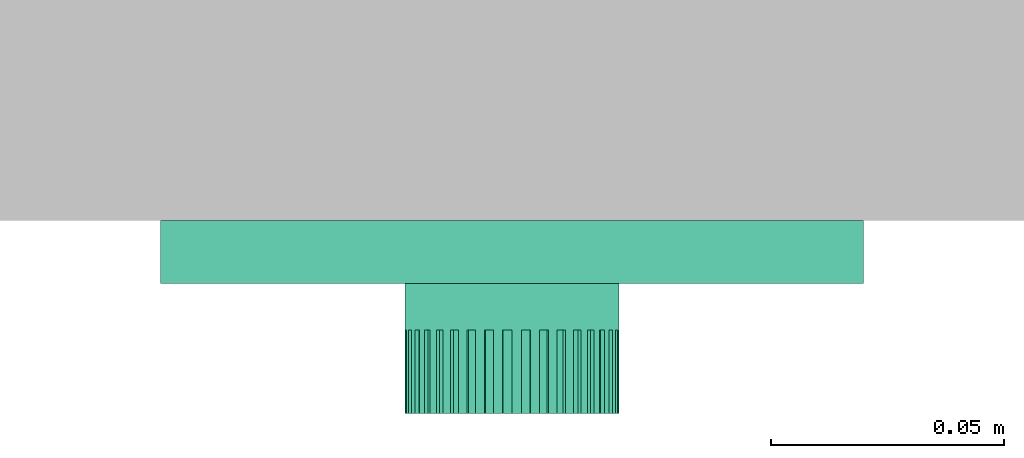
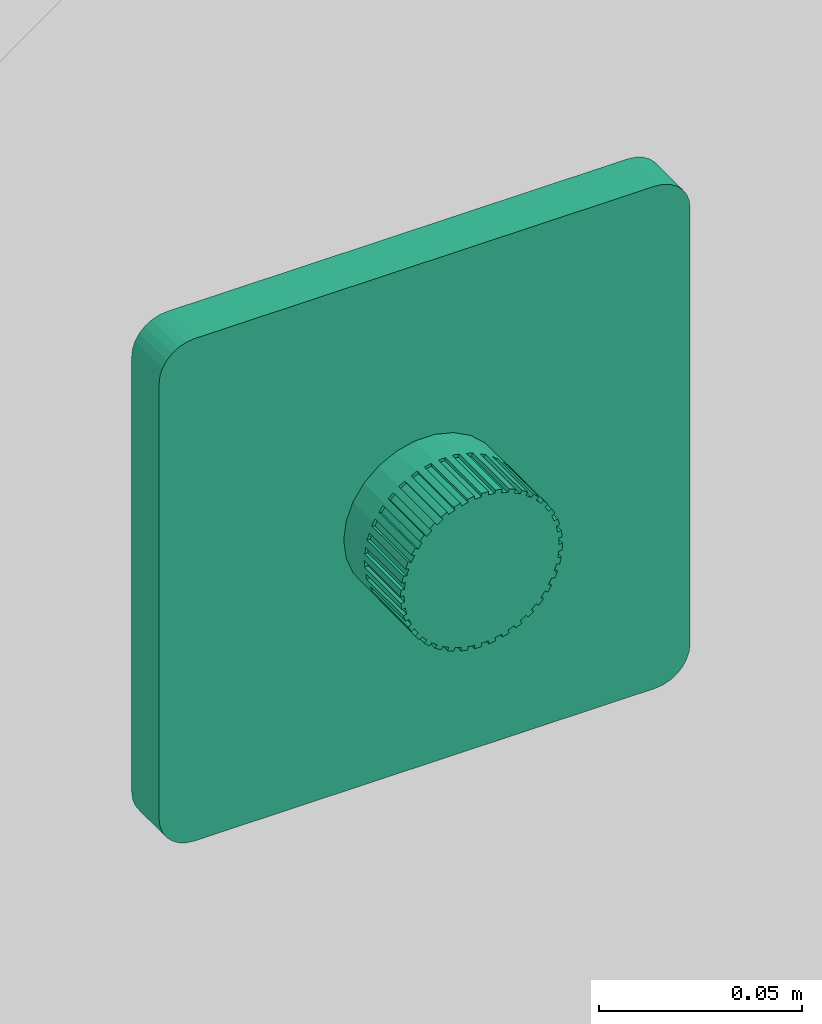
# One storey, part 2 of 2: 1 flow terminal.
"""IFC2X3 building model written with IfcOpenShell, lengths in millimetres."""

import ifcopenshell
import ifcopenshell.guid

model = None  # the IFC model being written
_history = None  # IfcOwnerHistory: only IFC2X3 demands one
_inside = {}  # id of a spatial element -> (the spatial element, [elements in it])
_under = {}  # id of a project, library or spatial element -> (it, [spatial elements below it])
_declared = {}  # id of a project -> (the project, [libraries it declares])
_typed = {}  # id of a type object -> (the type object, [elements of that type])
_made_of = {}  # id of a material, layer set ... -> (it, [elements and type objects made of it])


def new_model(schema):
    """Start an empty IFC model of exactly this schema.

    Asked for "IFC4X3", IfcOpenShell would pick the latest addendum, in which some entities
    have other attributes; the version numbers below select the first issue.
    IFC2X3 requires an IfcOwnerHistory on every rooted entity: one is made here for all.
    """
    global model, _history
    if schema == "IFC4X3":
        model = ifcopenshell.file(schema_version=(4, 3, 0, 0))
    else:
        model = ifcopenshell.file(schema=schema)
    _inside.clear()
    _under.clear()
    _declared.clear()
    _typed.clear()
    _made_of.clear()
    _history = None
    if model.schema == "IFC2X3":
        org = make("IfcOrganization", Name="unknown")
        user = make(
            "IfcPersonAndOrganization",
            ThePerson=make("IfcPerson", FamilyName="unknown"),
            TheOrganization=org,
        )
        app = make(
            "IfcApplication",
            ApplicationDeveloper=org,
            Version="unknown",
            ApplicationFullName="unknown",
            ApplicationIdentifier="unknown",
        )
        _history = make(
            "IfcOwnerHistory",
            OwningUser=user,
            OwningApplication=app,
            ChangeAction="ADDED",
            CreationDate=0,
        )
    return model


def make(cls, **values):
    """One entity of the class cls with the attributes given. An attribute that is None is left unset."""
    return model.create_entity(
        cls, **{name: value for name, value in values.items() if value is not None}
    )


def entity(cls, *values):
    """Any entity or typed value of the class cls, its attributes in the order of the schema. None: left unset."""
    e = model.create_entity(cls)
    for i, value in enumerate(values):
        if value is not None:
            e[i] = value
    return e


def rooted(cls, **values):
    """An entity with a GlobalId (a new one), such as an element, a storey or a relation."""
    return make(cls, GlobalId=ifcopenshell.guid.new(), OwnerHistory=_history, **values)


def si_unit(unit_type, name, prefix=None):
    """IfcSIUnit, for example si_unit("LENGTHUNIT", "METRE", prefix="MILLI")."""
    return make("IfcSIUnit", UnitType=unit_type, Prefix=prefix, Name=name)


def converted_unit(unit_type, name, factor, base, dimensions=None, offset=None):
    """IfcConversionBasedUnit, such as the inch: factor (a typed value) times the base unit."""
    return make(
        "IfcConversionBasedUnit"
        if offset is None
        else "IfcConversionBasedUnitWithOffset",
        ConversionOffset=offset,
        Dimensions=None
        if dimensions is None
        else entity("IfcDimensionalExponents", *dimensions),
        UnitType=unit_type,
        Name=name,
        ConversionFactor=make(
            "IfcMeasureWithUnit", ValueComponent=factor, UnitComponent=base
        ),
    )


def derived_unit(unit_type, elements):
    """IfcDerivedUnit: a product of units, each with its exponent."""
    return make(
        "IfcDerivedUnit",
        Elements=[
            make("IfcDerivedUnitElement", Unit=unit, Exponent=power)
            for unit, power in elements
        ],
        UnitType=unit_type,
    )


def assignment(units):
    """IfcUnitAssignment: the units of a project."""
    return None if units is None else make("IfcUnitAssignment", Units=units)


def point(xyz):
    """IfcCartesianPoint."""
    return None if xyz is None else make("IfcCartesianPoint", Coordinates=xyz)


def direction(xyz):
    """IfcDirection."""
    return None if xyz is None else make("IfcDirection", DirectionRatios=xyz)


def frame(location, z_axis=None, x_axis=None):
    """IfcAxis2Placement3D, a coordinate frame: its origin and axes. An axis left out is left unset."""
    return make(
        "IfcAxis2Placement3D",
        Location=point(location),
        Axis=direction(z_axis),
        RefDirection=direction(x_axis),
    )


def frame_2d(location, x_axis=None):
    """IfcAxis2Placement2D, a coordinate frame in the plane: its origin and x axis."""
    return make(
        "IfcAxis2Placement2D", Location=point(location), RefDirection=direction(x_axis)
    )


def origin():
    """The frame at (0, 0, 0) with its axes left unset."""
    return frame((0.0, 0.0, 0.0))


def place(relative_to, where):
    """IfcLocalPlacement: puts the frame where relative to a parent placement (None: the world)."""
    return make(
        "IfcLocalPlacement", PlacementRelTo=relative_to, RelativePlacement=where
    )


def context(
    kind, dimensions, precision=None, world=None, true_north=None, identifier=None
):
    """IfcGeometricRepresentationContext, for example the 3D "Model" context."""
    return make(
        "IfcGeometricRepresentationContext",
        ContextIdentifier=identifier,
        ContextType=kind,
        CoordinateSpaceDimension=dimensions,
        Precision=precision,
        WorldCoordinateSystem=world,
        TrueNorth=true_north,
    )


def subcontext(parent, identifier, kind, view, scale=None):
    """IfcGeometricRepresentationSubContext, for example "Body" below "Model"."""
    return make(
        "IfcGeometricRepresentationSubContext",
        ContextIdentifier=identifier,
        ContextType=kind,
        ParentContext=parent,
        TargetScale=scale,
        TargetView=view,
    )


def project(units=None, contexts=None):
    """IfcProject with its units and contexts."""
    return rooted(
        "IfcProject",
        Name="project",
        RepresentationContexts=contexts,
        UnitsInContext=assignment(units),
    )


def spatial(cls, under=None, at=None, **own):
    """A site, building, storey or space (cls), placed at a placement, below another one or the project."""
    s = rooted(cls, ObjectPlacement=at, **own)
    if under is not None:
        _under.setdefault(under.id(), (under, []))[1].append(s)
    return s


def polyline(points):
    """IfcPolyline through the points."""
    return make("IfcPolyline", Points=[point(p) for p in points])


def circle_curve(where, radius):
    """IfcCircle in the frame where."""
    return make("IfcCircle", Position=where, Radius=radius)


def parameter(value):
    """IfcParameterValue: where a trimmed curve begins or ends, as a parameter of its basis curve."""
    return model.create_entity("IfcParameterValue", value)


def trimmed(basis, trim1, trim2, sense, master):
    """IfcTrimmedCurve: the piece of a basis curve between two trims."""
    return make(
        "IfcTrimmedCurve",
        BasisCurve=basis,
        Trim1=trim1,
        Trim2=trim2,
        SenseAgreement=sense,
        MasterRepresentation=master,
    )


def segment(curve, same_sense, transition):
    """IfcCompositeCurveSegment."""
    return make(
        "IfcCompositeCurveSegment",
        Transition=transition,
        SameSense=same_sense,
        ParentCurve=curve,
    )


def composite_curve(segments, self_intersect=None):
    """IfcCompositeCurve: segments joined end to end."""
    return make("IfcCompositeCurve", Segments=segments, SelfIntersect=self_intersect)


def profile(cls, at=None, kind="AREA", **sizes):
    """A parametric profile (cls). Its sizes go by their IFC names, for example OverallWidth=200.0."""
    return make(cls, ProfileType=kind, Position=at, **sizes)


def circle(**sizes):
    """IfcCircleProfileDef."""
    return profile("IfcCircleProfileDef", **sizes)


def outline(outer, holes=None, kind="AREA"):
    """IfcArbitraryClosedProfileDef: a profile drawn as a closed curve; with holes, ...WithVoids."""
    if holes is None:
        return make("IfcArbitraryClosedProfileDef", ProfileType=kind, OuterCurve=outer)
    return make(
        "IfcArbitraryProfileDefWithVoids",
        ProfileType=kind,
        OuterCurve=outer,
        InnerCurves=holes,
    )


def extrude(swept, where, along, depth):
    """IfcExtrudedAreaSolid: the profile swept, set in the frame where, extruded along a direction by depth."""
    return make(
        "IfcExtrudedAreaSolid",
        SweptArea=swept,
        Position=where,
        ExtrudedDirection=direction(along),
        Depth=depth,
    )


def shape(context_of_items, identifier, shape_type, items):
    """IfcShapeRepresentation: the items that make up one representation, for example the "Body"."""
    return make(
        "IfcShapeRepresentation",
        ContextOfItems=context_of_items,
        RepresentationIdentifier=identifier,
        RepresentationType=shape_type,
        Items=items,
    )


def source(mapping_origin, context_of_items, identifier, shape_type, items):
    """IfcRepresentationMap: a shape defined once, which mapped items show again and again."""
    return make(
        "IfcRepresentationMap",
        MappingOrigin=mapping_origin,
        MappedRepresentation=shape(context_of_items, identifier, shape_type, items),
    )


def transform(
    local_origin,
    x_axis=None,
    y_axis=None,
    z_axis=None,
    scale=None,
    scale2=None,
    scale3=None,
    uniform=True,
):
    """IfcCartesianTransformationOperator3D, or its non-uniform kind. x_axis, y_axis, z_axis: its Axis1, 2, 3."""
    if uniform:
        return make(
            "IfcCartesianTransformationOperator3D",
            Axis1=direction(x_axis),
            Axis2=direction(y_axis),
            LocalOrigin=point(local_origin),
            Scale=scale,
            Axis3=direction(z_axis),
        )
    return make(
        "IfcCartesianTransformationOperator3DnonUniform",
        Axis1=direction(x_axis),
        Axis2=direction(y_axis),
        LocalOrigin=point(local_origin),
        Scale=scale,
        Axis3=direction(z_axis),
        Scale2=scale2,
        Scale3=scale3,
    )


def mapped(mapping_source, mapping_target):
    """IfcMappedItem: shows the shape of a source again, moved by a transform."""
    return make(
        "IfcMappedItem", MappingSource=mapping_source, MappingTarget=mapping_target
    )


def material(Name=None, Category=None):
    """IfcMaterial."""
    return make("IfcMaterial", Name=Name, Category=Category)


def made_of(thing, what):
    """Note that an element or type object is made of a material, layer set ...; save() writes the relation."""
    if what is not None:
        _made_of.setdefault(what.id(), (what, []))[1].append(thing)
    return thing


def type_object(cls, material=None, **own):
    """A type object (cls), such as IfcWallType, which elements share."""
    return made_of(rooted(cls, **own), material)


def type_shapes(of_type, sources):
    """Give a type object the sources (RepresentationMaps) that its elements show as mapped items."""
    of_type.RepresentationMaps = sources


def element(
    cls,
    number,
    at=None,
    inside=None,
    cuts=None,
    type_object=None,
    material=None,
    context=None,
    identifier="Body",
    shape_type=None,
    held_by="IfcProductDefinitionShape",
    body=None,
    shapes=None,
    **own,
):
    """One element of the class cls, such as IfcWall. Its Tag is "e" and its number.

    at: its placement. inside: the storey or other place that contains it. cuts: it is an
    opening in that element (IfcRelVoidsElement). A single representation is given by context,
    identifier, shape_type and body (its items); several are given by shapes. held_by: the class
    of the entity that holds the representations. save() writes the other relations.
    """
    e = rooted(cls, Tag="e%d" % number, ObjectPlacement=at, **own)
    if body is not None:
        shapes = [shape(context, identifier, shape_type, body)]
    if shapes is not None:
        e.Representation = make(held_by, Representations=shapes)
    if inside is not None:
        _inside.setdefault(inside.id(), (inside, []))[1].append(e)
    if cuts is not None:
        rooted(
            "IfcRelVoidsElement", RelatingBuildingElement=cuts, RelatedOpeningElement=e
        )
    if type_object is not None:
        _typed.setdefault(type_object.id(), (type_object, []))[1].append(e)
    return made_of(e, material)


def aggregate(whole, parts):
    """IfcRelAggregates: a whole, such as a stair, and the parts it consists of."""
    return rooted("IfcRelAggregates", RelatingObject=whole, RelatedObjects=parts)


def save(model, path):
    """Write the relations noted so far, then the file.

    IfcRelAggregates (storeys below a building ...), IfcRelContainedInSpatialStructure (elements
    in a storey), IfcRelDefinesByType, IfcRelAssociatesMaterial and IfcRelDeclares: one each for
    every whole, place, type object, material and project.
    """
    for whole, parts in _under.values():
        aggregate(whole, parts)
    for where, things in _inside.values():
        rooted(
            "IfcRelContainedInSpatialStructure",
            RelatedElements=things,
            RelatingStructure=where,
        )
    for kind, things in _typed.values():
        rooted("IfcRelDefinesByType", RelatedObjects=things, RelatingType=kind)
    for what, things in _made_of.values():
        rooted("IfcRelAssociatesMaterial", RelatedObjects=things, RelatingMaterial=what)
    for by, libraries in _declared.values():
        rooted("IfcRelDeclares", RelatingContext=by, RelatedDefinitions=libraries)
    model.write(path)


model = new_model("IFC2X3")

# Units and contexts
model_context = context("Model", 3, precision=0.01, world=origin(), true_north=direction((6.12303176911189e-17, 1.0)))
body_context = subcontext(model_context, "Body", "Model", "MODEL_VIEW")
ifc_project = project(units=[si_unit("LENGTHUNIT", "METRE", prefix="MILLI"), si_unit("AREAUNIT", "SQUARE_METRE"), si_unit("VOLUMEUNIT", "CUBIC_METRE"), converted_unit("PLANEANGLEUNIT", "DEGREE", entity("IfcRatioMeasure", 0.0174532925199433), si_unit("PLANEANGLEUNIT", "RADIAN"), dimensions=[0, 0, 0, 0, 0, 0, 0]), si_unit("MASSUNIT", "GRAM", prefix="KILO"), derived_unit("MASSDENSITYUNIT", [(si_unit("MASSUNIT", "GRAM", prefix="KILO"), 1), (si_unit("LENGTHUNIT", "METRE"), -3)]), derived_unit("MOMENTOFINERTIAUNIT", [(si_unit("LENGTHUNIT", "METRE"), 4)]), si_unit("TIMEUNIT", "SECOND"), si_unit("FREQUENCYUNIT", "HERTZ"), si_unit("THERMODYNAMICTEMPERATUREUNIT", "DEGREE_CELSIUS"), derived_unit("THERMALTRANSMITTANCEUNIT", [(si_unit("MASSUNIT", "GRAM", prefix="KILO"), 1), (si_unit("THERMODYNAMICTEMPERATUREUNIT", "KELVIN"), -1), (si_unit("TIMEUNIT", "SECOND"), -3)]), derived_unit("VOLUMETRICFLOWRATEUNIT", [(si_unit("LENGTHUNIT", "METRE"), 3), (si_unit("TIMEUNIT", "SECOND"), -1)]), si_unit("ELECTRICCURRENTUNIT", "AMPERE"), si_unit("ELECTRICVOLTAGEUNIT", "VOLT"), si_unit("POWERUNIT", "WATT"), si_unit("FORCEUNIT", "NEWTON", prefix="KILO"), si_unit("ILLUMINANCEUNIT", "LUX"), si_unit("LUMINOUSFLUXUNIT", "LUMEN"), si_unit("LUMINOUSINTENSITYUNIT", "CANDELA"), derived_unit("USERDEFINED", [(si_unit("MASSUNIT", "GRAM", prefix="KILO"), -1), (si_unit("LENGTHUNIT", "METRE"), -2), (si_unit("TIMEUNIT", "SECOND"), 3), (si_unit("LUMINOUSFLUXUNIT", "LUMEN"), 1)]), derived_unit("LINEARVELOCITYUNIT", [(si_unit("LENGTHUNIT", "METRE"), 1), (si_unit("TIMEUNIT", "SECOND"), -1)]), si_unit("PRESSUREUNIT", "PASCAL"), derived_unit("USERDEFINED", [(si_unit("LENGTHUNIT", "METRE"), -2), (si_unit("MASSUNIT", "GRAM", prefix="KILO"), 1), (si_unit("TIMEUNIT", "SECOND"), -2)]), derived_unit("LINEARFORCEUNIT", [(si_unit("MASSUNIT", "GRAM", prefix="KILO"), 1), (si_unit("LENGTHUNIT", "METRE"), 1), (si_unit("TIMEUNIT", "SECOND"), -2), (si_unit("LENGTHUNIT", "METRE"), -1)]), derived_unit("PLANARFORCEUNIT", [(si_unit("MASSUNIT", "GRAM", prefix="KILO"), 1), (si_unit("LENGTHUNIT", "METRE"), 1), (si_unit("TIMEUNIT", "SECOND"), -2), (si_unit("LENGTHUNIT", "METRE"), -2)])], contexts=[model_context])

# Site, building, storey
site_placement = place(None, origin())
site = spatial("IfcSite", under=ifc_project, at=site_placement, Name="Default", CompositionType="ELEMENT")
building_placement = place(site_placement, origin())
building = spatial("IfcBuilding", under=site, at=building_placement, CompositionType="ELEMENT")
storey_placement = place(building_placement, origin())
storey = spatial("IfcBuildingStorey", under=building, at=storey_placement, Name="Level 1", CompositionType="ELEMENT", Elevation=0.0)

# Flow terminal
ifc_material = material(Name="Cool Sunrise")
distribution_element_type = type_object("IfcDistributionElementType", Name="FFAS0926-709GL0BT0_REVIT:EasySET for Head Shower", material=ifc_material)
shared_shape = source(origin(), body_context, "Body", "SweptSolid", [
    extrude(outline(composite_curve([segment(trimmed(circle_curve(frame_2d((0.0, 0.0), x_axis=(0.999048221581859, 0.0436193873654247)), 23.0000000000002), [parameter(265.0)], [parameter(270.0)], True, "PARAMETER"), True, "CONTINUOUS"), segment(polyline([(1.00324590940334, -22.9781090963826), (0.959626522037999, -21.9790608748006)]), True, "CONTINUOUS"), segment(trimmed(circle_curve(frame_2d((0.0, 0.0), x_axis=(0.999048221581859, 0.0436193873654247)), 22.0), [parameter(270.0)], [parameter(274.999999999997)], True, "PARAMETER"), True, "CONTINUOUS"), segment(polyline([(2.8715762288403, -21.8117869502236), (3.00210242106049, -22.8032318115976)]), True, "CONTINUOUS"), segment(trimmed(circle_curve(frame_2d((0.0, 0.0), x_axis=(0.999048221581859, 0.0436193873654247)), 23.0000000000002), [parameter(274.999999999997)], [parameter(279.999999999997)], True, "PARAMETER"), True, "CONTINUOUS"), segment(polyline([(4.97811112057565, -22.4548081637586), (4.76167150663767, -21.4785121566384)]), True, "CONTINUOUS"), segment(trimmed(circle_curve(frame_2d((0.0, 0.0), x_axis=(0.999048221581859, 0.0436193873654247)), 22.0), [parameter(279.999999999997)], [parameter(284.999999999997)], True, "PARAMETER"), True, "CONTINUOUS"), segment(polyline([(6.61552758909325, -20.981772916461), (6.91623338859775, -21.9354898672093)]), True, "CONTINUOUS"), segment(trimmed(circle_curve(frame_2d((0.0, 0.0), x_axis=(0.999048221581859, 0.0436193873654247)), 23.0000000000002), [parameter(284.999999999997)], [parameter(289.999999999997)], True, "PARAMETER"), True, "CONTINUOUS"), segment(polyline([(8.80171894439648, -21.2492292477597), (8.41903551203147, -20.3253497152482)]), True, "CONTINUOUS"), segment(trimmed(circle_curve(frame_2d((0.0, 0.0), x_axis=(0.999048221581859, 0.0436193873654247)), 22.0), [parameter(289.999999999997)], [parameter(294.999999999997)], True, "PARAMETER"), True, "CONTINUOUS"), segment(polyline([(10.1584694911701, -19.5142383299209), (10.6202181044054, -20.4012491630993)]), True, "CONTINUOUS"), segment(trimmed(circle_curve(frame_2d((0.0, 0.0), x_axis=(0.999048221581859, 0.0436193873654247)), 23.0000000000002), [parameter(294.999999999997)], [parameter(299.999999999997)], True, "PARAMETER"), True, "CONTINUOUS"), segment(polyline([(12.3578909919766, -19.3980032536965), (11.8205913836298, -18.5546118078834)]), True, "CONTINUOUS"), segment(trimmed(circle_curve(frame_2d((0.0, 0.0), x_axis=(0.999048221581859, 0.0436193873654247)), 22.0), [parameter(299.999999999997)], [parameter(304.999999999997)], True, "PARAMETER"), True, "CONTINUOUS"), segment(polyline([(13.3927514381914, -17.4537734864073), (14.0015128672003, -18.2471268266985)]), True, "CONTINUOUS"), segment(trimmed(circle_curve(frame_2d((0.0, 0.0), x_axis=(0.999048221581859, 0.0436193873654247)), 23.0000000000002), [parameter(304.999999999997)], [parameter(309.999999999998)], True, "PARAMETER"), True, "CONTINUOUS"), segment(polyline([(15.5385747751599, -16.957378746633), (14.8629845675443, -16.2201014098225)]), True, "CONTINUOUS"), segment(trimmed(circle_curve(frame_2d((0.0, 0.0), x_axis=(0.999048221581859, 0.0436193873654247)), 22.0), [parameter(309.999999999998)], [parameter(314.999999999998)], True, "PARAMETER"), True, "CONTINUOUS"), segment(polyline([(16.2201014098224, -14.8629845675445), (16.9573787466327, -15.5385747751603)]), True, "CONTINUOUS"), segment(trimmed(circle_curve(frame_2d((0.0, 0.0), x_axis=(0.999048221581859, 0.0436193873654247)), 23.0000000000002), [parameter(314.999999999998)], [parameter(319.999999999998)], True, "PARAMETER"), True, "CONTINUOUS"), segment(polyline([(18.2471268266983, -14.0015128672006), (17.453773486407, -13.3927514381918)]), True, "CONTINUOUS"), segment(trimmed(circle_curve(frame_2d((0.0, 0.0), x_axis=(0.999048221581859, 0.0436193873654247)), 22.0), [parameter(319.999999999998)], [parameter(324.999999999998)], True, "PARAMETER"), True, "CONTINUOUS"), segment(polyline([(18.5546118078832, -11.8205913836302), (19.3980032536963, -12.357890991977)]), True, "CONTINUOUS"), segment(trimmed(circle_curve(frame_2d((0.0, 0.0), x_axis=(0.999048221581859, 0.0436193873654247)), 23.0000000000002), [parameter(324.999999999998)], [parameter(329.999999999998)], True, "PARAMETER"), True, "CONTINUOUS"), segment(polyline([(20.4012491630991, -10.6202181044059), (19.5142383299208, -10.1584694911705)]), True, "CONTINUOUS"), segment(trimmed(circle_curve(frame_2d((0.0, 0.0), x_axis=(0.999048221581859, 0.0436193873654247)), 22.0), [parameter(329.999999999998)], [parameter(334.999999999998)], True, "PARAMETER"), True, "CONTINUOUS"), segment(polyline([(20.3253497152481, -8.41903551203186), (21.2492292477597, -8.80171894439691)]), True, "CONTINUOUS"), segment(trimmed(circle_curve(frame_2d((0.0, 0.0), x_axis=(0.999048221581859, 0.0436193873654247)), 23.0000000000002), [parameter(334.999999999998)], [parameter(339.999999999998)], True, "PARAMETER"), True, "CONTINUOUS"), segment(polyline([(21.9354898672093, -6.91623338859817), (20.9817729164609, -6.61552758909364)]), True, "CONTINUOUS"), segment(trimmed(circle_curve(frame_2d((0.0, 0.0), x_axis=(0.999048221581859, 0.0436193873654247)), 22.0), [parameter(339.999999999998)], [parameter(344.999999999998)], True, "PARAMETER"), True, "CONTINUOUS"), segment(polyline([(21.4785121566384, -4.7616715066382), (22.4548081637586, -4.97811112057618)]), True, "CONTINUOUS"), segment(trimmed(circle_curve(frame_2d((0.0, 0.0), x_axis=(0.999048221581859, 0.0436193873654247)), 23.0000000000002), [parameter(344.999999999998)], [parameter(349.999999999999)], True, "PARAMETER"), True, "CONTINUOUS"), segment(polyline([(22.8032318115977, -3.00210242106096), (21.8117869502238, -2.87157622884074)]), True, "CONTINUOUS"), segment(trimmed(circle_curve(frame_2d((0.0, 0.0), x_axis=(0.999048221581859, 0.0436193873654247)), 22.0), [parameter(349.999999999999)], [parameter(354.999999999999)], True, "PARAMETER"), True, "CONTINUOUS"), segment(polyline([(21.9790608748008, -0.959626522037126), (22.9781090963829, -1.00324590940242)]), True, "CONTINUOUS"), segment(trimmed(circle_curve(frame_2d((0.0, 0.0), x_axis=(0.999048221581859, 0.0436193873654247)), 23.0000000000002), [parameter(354.999999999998)], [parameter(359.999999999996)], True, "PARAMETER"), True, "CONTINUOUS"), segment(polyline([(22.9781090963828, 1.00324590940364), (21.9790608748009, 0.959626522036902)]), True, "CONTINUOUS"), segment(trimmed(circle_curve(frame_2d((0.0, 0.0), x_axis=(0.999048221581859, 0.0436193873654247)), 22.0), [parameter(359.999999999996)], [parameter(4.99999999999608)], True, "PARAMETER"), True, "CONTINUOUS"), segment(polyline([(21.8117869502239, 2.87157622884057), (22.8032318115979, 3.00210242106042)]), True, "CONTINUOUS"), segment(trimmed(circle_curve(frame_2d((0.0, 0.0), x_axis=(0.999048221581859, 0.0436193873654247)), 23.0000000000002), [parameter(4.99999999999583)], [parameter(9.99999999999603)], True, "PARAMETER"), True, "CONTINUOUS"), segment(polyline([(22.4548081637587, 4.97811112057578), (21.4785121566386, 4.76167150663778)]), True, "CONTINUOUS"), segment(trimmed(circle_curve(frame_2d((0.0, 0.0), x_axis=(0.999048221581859, 0.0436193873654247)), 22.0), [parameter(9.99999999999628)], [parameter(14.9999999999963)], True, "PARAMETER"), True, "CONTINUOUS"), segment(polyline([(20.9817729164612, 6.6155275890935), (21.9354898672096, 6.91623338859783)]), True, "CONTINUOUS"), segment(trimmed(circle_curve(frame_2d((0.0, 0.0), x_axis=(0.999048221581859, 0.0436193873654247)), 23.0000000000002), [parameter(14.9999999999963)], [parameter(19.9999999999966)], True, "PARAMETER"), True, "CONTINUOUS"), segment(polyline([(21.24922924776, 8.80171894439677), (20.3253497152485, 8.41903551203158)]), True, "CONTINUOUS"), segment(trimmed(circle_curve(frame_2d((0.0, 0.0), x_axis=(0.999048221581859, 0.0436193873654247)), 22.0), [parameter(19.9999999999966)], [parameter(24.9999999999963)], True, "PARAMETER"), True, "CONTINUOUS"), segment(polyline([(19.5142383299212, 10.1584694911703), (20.4012491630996, 10.6202181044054)]), True, "CONTINUOUS"), segment(trimmed(circle_curve(frame_2d((0.0, 0.0), x_axis=(0.999048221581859, 0.0436193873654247)), 23.0000000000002), [parameter(24.9999999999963)], [parameter(29.9999999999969)], True, "PARAMETER"), True, "CONTINUOUS"), segment(polyline([(19.3980032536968, 12.3578909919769), (18.5546118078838, 11.8205913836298)]), True, "CONTINUOUS"), segment(trimmed(circle_curve(frame_2d((0.0, 0.0), x_axis=(0.999048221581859, 0.0436193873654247)), 22.0), [parameter(29.9999999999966)], [parameter(34.9999999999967)], True, "PARAMETER"), True, "CONTINUOUS"), segment(polyline([(17.4537734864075, 13.3927514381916), (18.2471268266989, 14.0015128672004)]), True, "CONTINUOUS"), segment(trimmed(circle_curve(frame_2d((0.0, 0.0), x_axis=(0.999048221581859, 0.0436193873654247)), 23.0000000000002), [parameter(34.9999999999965)], [parameter(39.999999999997)], True, "PARAMETER"), True, "CONTINUOUS"), segment(polyline([(16.9573787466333, 15.5385747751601), (16.220101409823, 14.8629845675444)]), True, "CONTINUOUS"), segment(trimmed(circle_curve(frame_2d((0.0, 0.0), x_axis=(0.999048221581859, 0.0436193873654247)), 22.0), [parameter(39.999999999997)], [parameter(44.9999999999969)], True, "PARAMETER"), True, "CONTINUOUS"), segment(polyline([(14.8629845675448, 16.2201014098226), (15.5385747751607, 16.9573787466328)]), True, "CONTINUOUS"), segment(trimmed(circle_curve(frame_2d((0.0, 0.0), x_axis=(0.999048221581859, 0.0436193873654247)), 23.0000000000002), [parameter(44.9999999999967)], [parameter(49.9999999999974)], True, "PARAMETER"), True, "CONTINUOUS"), segment(polyline([(14.0015128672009, 18.2471268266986), (13.3927514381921, 17.4537734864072)]), True, "CONTINUOUS"), segment(trimmed(circle_curve(frame_2d((0.0, 0.0), x_axis=(0.999048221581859, 0.0436193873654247)), 22.0), [parameter(49.9999999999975)], [parameter(54.999999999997)], True, "PARAMETER"), True, "CONTINUOUS"), segment(polyline([(11.8205913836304, 18.5546118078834), (12.3578909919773, 19.3980032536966)]), True, "CONTINUOUS"), segment(trimmed(circle_curve(frame_2d((0.0, 0.0), x_axis=(0.999048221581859, 0.0436193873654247)), 23.0000000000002), [parameter(54.9999999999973)], [parameter(59.9999999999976)], True, "PARAMETER"), True, "CONTINUOUS"), segment(polyline([(10.6202181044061, 20.4012491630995), (10.1584694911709, 19.514238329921)]), True, "CONTINUOUS"), segment(trimmed(circle_curve(frame_2d((0.0, 0.0), x_axis=(0.999048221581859, 0.0436193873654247)), 22.0), [parameter(59.9999999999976)], [parameter(64.9999999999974)], True, "PARAMETER"), True, "CONTINUOUS"), segment(polyline([(8.41903551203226, 20.3253497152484), (8.8017189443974, 21.2492292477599)]), True, "CONTINUOUS"), segment(trimmed(circle_curve(frame_2d((0.0, 0.0), x_axis=(0.999048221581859, 0.0436193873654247)), 23.0000000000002), [parameter(64.9999999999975)], [parameter(69.9999999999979)], True, "PARAMETER"), True, "CONTINUOUS"), segment(polyline([(6.91623338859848, 21.9354898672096), (6.61552758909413, 20.9817729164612)]), True, "CONTINUOUS"), segment(trimmed(circle_curve(frame_2d((0.0, 0.0), x_axis=(0.999048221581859, 0.0436193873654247)), 22.0), [parameter(69.9999999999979)], [parameter(74.9999999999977)], True, "PARAMETER"), True, "CONTINUOUS"), segment(polyline([(4.76167150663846, 21.4785121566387), (4.9781111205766, 22.4548081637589)]), True, "CONTINUOUS"), segment(trimmed(circle_curve(frame_2d((0.0, 0.0), x_axis=(0.999048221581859, 0.0436193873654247)), 23.0000000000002), [parameter(74.9999999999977)], [parameter(79.999999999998)], True, "PARAMETER"), True, "CONTINUOUS"), segment(polyline([(3.00210242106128, 22.803231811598), (2.87157622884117, 21.8117869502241)]), True, "CONTINUOUS"), segment(trimmed(circle_curve(frame_2d((0.0, 0.0), x_axis=(0.999048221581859, 0.0436193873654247)), 22.0), [parameter(79.9999999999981)], [parameter(84.999999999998)], True, "PARAMETER"), True, "CONTINUOUS"), segment(polyline([(0.959626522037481, 21.9790608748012), (1.00324590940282, 22.9781090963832)]), True, "CONTINUOUS"), segment(trimmed(circle_curve(frame_2d((0.0, 0.0), x_axis=(0.999048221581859, 0.0436193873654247)), 23.0000000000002), [parameter(84.999999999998)], [parameter(89.9999999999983)], True, "PARAMETER"), True, "CONTINUOUS"), segment(polyline([(-1.00324590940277, 22.9781090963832), (-0.95962652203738, 21.9790608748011)]), True, "CONTINUOUS"), segment(trimmed(circle_curve(frame_2d((0.0, 0.0), x_axis=(0.999048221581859, 0.0436193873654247)), 22.0), [parameter(89.9999999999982)], [parameter(94.9999999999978)], True, "PARAMETER"), True, "CONTINUOUS"), segment(polyline([(-2.87157622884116, 21.8117869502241), (-3.00210242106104, 22.8032318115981)]), True, "CONTINUOUS"), segment(trimmed(circle_curve(frame_2d((0.0, 0.0), x_axis=(0.999048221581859, 0.0436193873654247)), 23.0000000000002), [parameter(94.9999999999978)], [parameter(99.999999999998)], True, "PARAMETER"), True, "CONTINUOUS"), segment(polyline([(-4.97811112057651, 22.4548081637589), (-4.76167150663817, 21.4785121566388)]), True, "CONTINUOUS"), segment(trimmed(circle_curve(frame_2d((0.0, 0.0), x_axis=(0.999048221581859, 0.0436193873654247)), 22.0), [parameter(99.999999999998)], [parameter(104.999999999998)], True, "PARAMETER"), True, "CONTINUOUS"), segment(polyline([(-6.6155275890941, 20.9817729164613), (-6.91623338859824, 21.9354898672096)]), True, "CONTINUOUS"), segment(trimmed(circle_curve(frame_2d((0.0, 0.0), x_axis=(0.999048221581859, 0.0436193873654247)), 23.0000000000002), [parameter(104.999999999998)], [parameter(109.999999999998)], True, "PARAMETER"), True, "CONTINUOUS"), segment(polyline([(-8.80171894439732, 21.24922924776), (-8.41903551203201, 20.3253497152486)]), True, "CONTINUOUS"), segment(trimmed(circle_curve(frame_2d((0.0, 0.0), x_axis=(0.999048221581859, 0.0436193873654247)), 22.0), [parameter(109.999999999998)], [parameter(114.999999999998)], True, "PARAMETER"), True, "CONTINUOUS"), segment(polyline([(-10.1584694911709, 19.5142383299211), (-10.6202181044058, 20.4012491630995)]), True, "CONTINUOUS"), segment(trimmed(circle_curve(frame_2d((0.0, 0.0), x_axis=(0.999048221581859, 0.0436193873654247)), 23.0000000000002), [parameter(114.999999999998)], [parameter(119.999999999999)], True, "PARAMETER"), True, "CONTINUOUS"), segment(polyline([(-12.3578909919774, 19.3980032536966), (-11.8205913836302, 18.5546118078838)]), True, "CONTINUOUS"), segment(trimmed(circle_curve(frame_2d((0.0, 0.0), x_axis=(0.999048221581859, 0.0436193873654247)), 22.0), [parameter(119.999999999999)], [parameter(124.999999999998)], True, "PARAMETER"), True, "CONTINUOUS"), segment(polyline([(-13.3927514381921, 17.4537734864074), (-14.0015128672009, 18.2471268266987)]), True, "CONTINUOUS"), segment(trimmed(circle_curve(frame_2d((0.0, 0.0), x_axis=(0.999048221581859, 0.0436193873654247)), 23.0000000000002), [parameter(124.999999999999)], [parameter(129.999999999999)], True, "PARAMETER"), True, "CONTINUOUS"), segment(polyline([(-15.5385747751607, 16.957378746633), (-14.8629845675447, 16.220101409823)]), True, "CONTINUOUS"), segment(trimmed(circle_curve(frame_2d((0.0, 0.0), x_axis=(0.999048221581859, 0.0436193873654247)), 22.0), [parameter(129.999999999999)], [parameter(134.999999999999)], True, "PARAMETER"), True, "CONTINUOUS"), segment(polyline([(-16.220101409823, 14.8629845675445), (-16.9573787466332, 15.5385747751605)]), True, "CONTINUOUS"), segment(trimmed(circle_curve(frame_2d((0.0, 0.0), x_axis=(0.999048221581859, 0.0436193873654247)), 23.0000000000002), [parameter(134.999999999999)], [parameter(139.999999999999)], True, "PARAMETER"), True, "CONTINUOUS"), segment(polyline([(-18.2471268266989, 14.0015128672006), (-17.4537734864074, 13.392751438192)]), True, "CONTINUOUS"), segment(trimmed(circle_curve(frame_2d((0.0, 0.0), x_axis=(0.999048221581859, 0.0436193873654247)), 22.0), [parameter(139.999999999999)], [parameter(144.999999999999)], True, "PARAMETER"), True, "CONTINUOUS"), segment(polyline([(-18.5546118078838, 11.8205913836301), (-19.3980032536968, 12.3578909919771)]), True, "CONTINUOUS"), segment(trimmed(circle_curve(frame_2d((0.0, 0.0), x_axis=(0.999048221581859, 0.0436193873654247)), 23.0000000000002), [parameter(144.999999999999)], [parameter(149.999999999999)], True, "PARAMETER"), True, "CONTINUOUS"), segment(polyline([(-20.4012491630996, 10.6202181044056), (-19.5142383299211, 10.1584694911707)]), True, "CONTINUOUS"), segment(trimmed(circle_curve(frame_2d((0.0, 0.0), x_axis=(0.999048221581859, 0.0436193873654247)), 22.0), [parameter(149.999999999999)], [parameter(154.999999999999)], True, "PARAMETER"), True, "CONTINUOUS"), segment(polyline([(-20.3253497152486, 8.41903551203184), (-21.24922924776, 8.80171894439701)]), True, "CONTINUOUS"), segment(trimmed(circle_curve(frame_2d((0.0, 0.0), x_axis=(0.999048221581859, 0.0436193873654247)), 23.0000000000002), [parameter(154.999999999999)], [parameter(160.0)], True, "PARAMETER"), True, "CONTINUOUS"), segment(polyline([(-21.9354898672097, 6.91623338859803), (-20.9817729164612, 6.61552758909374)]), True, "CONTINUOUS"), segment(trimmed(circle_curve(frame_2d((0.0, 0.0), x_axis=(0.999048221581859, 0.0436193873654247)), 22.0), [parameter(160.0)], [parameter(164.999999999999)], True, "PARAMETER"), True, "CONTINUOUS"), segment(polyline([(-21.4785121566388, 4.76167150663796), (-22.4548081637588, 4.97811112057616)]), True, "CONTINUOUS"), segment(trimmed(circle_curve(frame_2d((0.0, 0.0), x_axis=(0.999048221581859, 0.0436193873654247)), 23.0000000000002), [parameter(165.0)], [parameter(170.0)], True, "PARAMETER"), True, "CONTINUOUS"), segment(polyline([(-22.803231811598, 3.00210242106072), (-21.811786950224, 2.87157622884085)]), True, "CONTINUOUS"), segment(trimmed(circle_curve(frame_2d((0.0, 0.0), x_axis=(0.999048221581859, 0.0436193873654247)), 22.0), [parameter(170.0)], [parameter(175.0)], True, "PARAMETER"), True, "CONTINUOUS"), segment(polyline([(-21.979060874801, 0.959626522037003), (-22.978109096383, 1.0032459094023)]), True, "CONTINUOUS"), segment(trimmed(circle_curve(frame_2d((0.0, 0.0), x_axis=(0.999048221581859, 0.0436193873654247)), 23.0000000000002), [parameter(175.0)], [parameter(179.999999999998)], True, "PARAMETER"), True, "CONTINUOUS"), segment(polyline([(-22.978109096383, -1.00324590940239), (-21.9790608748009, -0.95962652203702)]), True, "CONTINUOUS"), segment(trimmed(circle_curve(frame_2d((0.0, 0.0), x_axis=(0.999048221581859, 0.0436193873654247)), 22.0), [parameter(179.999999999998)], [parameter(184.999999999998)], True, "PARAMETER"), True, "CONTINUOUS"), segment(polyline([(-21.8117869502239, -2.87157622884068), (-22.8032318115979, -3.00210242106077)]), True, "CONTINUOUS"), segment(trimmed(circle_curve(frame_2d((0.0, 0.0), x_axis=(0.999048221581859, 0.0436193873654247)), 23.0000000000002), [parameter(184.999999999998)], [parameter(189.999999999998)], True, "PARAMETER"), True, "CONTINUOUS"), segment(polyline([(-22.4548081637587, -4.97811112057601), (-21.4785121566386, -4.7616715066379)]), True, "CONTINUOUS"), segment(trimmed(circle_curve(frame_2d((0.0, 0.0), x_axis=(0.999048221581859, 0.0436193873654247)), 22.0), [parameter(189.999999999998)], [parameter(194.999999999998)], True, "PARAMETER"), True, "CONTINUOUS"), segment(polyline([(-20.9817729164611, -6.61552758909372), (-21.9354898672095, -6.91623338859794)]), True, "CONTINUOUS"), segment(trimmed(circle_curve(frame_2d((0.0, 0.0), x_axis=(0.999048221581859, 0.0436193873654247)), 23.0000000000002), [parameter(194.999999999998)], [parameter(199.999999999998)], True, "PARAMETER"), True, "CONTINUOUS"), segment(polyline([(-21.2492292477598, -8.80171894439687), (-20.3253497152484, -8.41903551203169)]), True, "CONTINUOUS"), segment(trimmed(circle_curve(frame_2d((0.0, 0.0), x_axis=(0.999048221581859, 0.0436193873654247)), 22.0), [parameter(199.999999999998)], [parameter(204.999999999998)], True, "PARAMETER"), True, "CONTINUOUS"), segment(polyline([(-19.514238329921, -10.1584694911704), (-20.4012491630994, -10.6202181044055)]), True, "CONTINUOUS"), segment(trimmed(circle_curve(frame_2d((0.0, 0.0), x_axis=(0.999048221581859, 0.0436193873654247)), 23.0000000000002), [parameter(204.999999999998)], [parameter(209.999999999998)], True, "PARAMETER"), True, "CONTINUOUS"), segment(polyline([(-19.3980032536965, -12.3578909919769), (-18.5546118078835, -11.82059138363)]), True, "CONTINUOUS"), segment(trimmed(circle_curve(frame_2d((0.0, 0.0), x_axis=(0.999048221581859, 0.0436193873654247)), 22.0), [parameter(209.999999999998)], [parameter(214.999999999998)], True, "PARAMETER"), True, "CONTINUOUS"), segment(polyline([(-17.4537734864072, -13.3927514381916), (-18.2471268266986, -14.0015128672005)]), True, "CONTINUOUS"), segment(trimmed(circle_curve(frame_2d((0.0, 0.0), x_axis=(0.999048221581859, 0.0436193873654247)), 23.0000000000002), [parameter(214.999999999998)], [parameter(219.999999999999)], True, "PARAMETER"), True, "CONTINUOUS"), segment(polyline([(-16.9573787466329, -15.5385747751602), (-16.2201014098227, -14.8629845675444)]), True, "CONTINUOUS"), segment(trimmed(circle_curve(frame_2d((0.0, 0.0), x_axis=(0.999048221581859, 0.0436193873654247)), 22.0), [parameter(219.999999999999)], [parameter(224.999999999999)], True, "PARAMETER"), True, "CONTINUOUS"), segment(polyline([(-14.8629845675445, -16.2201014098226), (-15.5385747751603, -16.9573787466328)]), True, "CONTINUOUS"), segment(trimmed(circle_curve(frame_2d((0.0, 0.0), x_axis=(0.999048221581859, 0.0436193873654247)), 23.0000000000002), [parameter(224.999999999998)], [parameter(229.999999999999)], True, "PARAMETER"), True, "CONTINUOUS"), segment(polyline([(-14.0015128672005, -18.2471268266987), (-13.3927514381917, -17.4537734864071)]), True, "CONTINUOUS"), segment(trimmed(circle_curve(frame_2d((0.0, 0.0), x_axis=(0.999048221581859, 0.0436193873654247)), 22.0), [parameter(229.999999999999)], [parameter(234.999999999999)], True, "PARAMETER"), True, "CONTINUOUS"), segment(polyline([(-11.82059138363, -18.5546118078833), (-12.3578909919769, -19.3980032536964)]), True, "CONTINUOUS"), segment(trimmed(circle_curve(frame_2d((0.0, 0.0), x_axis=(0.999048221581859, 0.0436193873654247)), 23.0000000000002), [parameter(234.999999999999)], [parameter(239.999999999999)], True, "PARAMETER"), True, "CONTINUOUS"), segment(polyline([(-10.620218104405, -20.4012491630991), (-10.1584694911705, -19.5142383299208)]), True, "CONTINUOUS"), segment(trimmed(circle_curve(frame_2d((0.0, 0.0), x_axis=(0.999048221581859, 0.0436193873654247)), 22.0), [parameter(239.999999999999)], [parameter(244.999999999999)], True, "PARAMETER"), True, "CONTINUOUS"), segment(polyline([(-8.41903551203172, -20.3253497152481), (-8.8017189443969, -21.2492292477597)]), True, "CONTINUOUS"), segment(trimmed(circle_curve(frame_2d((0.0, 0.0), x_axis=(0.999048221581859, 0.0436193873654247)), 23.0000000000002), [parameter(244.999999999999)], [parameter(249.999999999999)], True, "PARAMETER"), True, "CONTINUOUS"), segment(polyline([(-6.91623338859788, -21.9354898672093), (-6.61552758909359, -20.981772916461)]), True, "CONTINUOUS"), segment(trimmed(circle_curve(frame_2d((0.0, 0.0), x_axis=(0.999048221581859, 0.0436193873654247)), 22.0), [parameter(250.0)], [parameter(254.999999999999)], True, "PARAMETER"), True, "CONTINUOUS"), segment(polyline([(-4.7616715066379, -21.4785121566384), (-4.97811112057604, -22.4548081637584)]), True, "CONTINUOUS"), segment(trimmed(circle_curve(frame_2d((0.0, 0.0), x_axis=(0.999048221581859, 0.0436193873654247)), 23.0000000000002), [parameter(254.999999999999)], [parameter(260.0)], True, "PARAMETER"), True, "CONTINUOUS"), segment(polyline([(-3.00210242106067, -22.8032318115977), (-2.87157622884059, -21.8117869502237)]), True, "CONTINUOUS"), segment(trimmed(circle_curve(frame_2d((0.0, 0.0), x_axis=(0.999048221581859, 0.0436193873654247)), 22.0), [parameter(260.0)], [parameter(265.0)], True, "PARAMETER"), True, "CONTINUOUS"), segment(polyline([(-0.959626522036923, -21.9790608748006), (-1.00324590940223, -22.9781090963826)]), True, "CONTINUOUS")], self_intersect=False)), frame((125.0, 123.50000000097, 724.499999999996), z_axis=(0.0, 1.0, 0.0), x_axis=(0.999048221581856, 0.0, 0.0436193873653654)), (0.0, 0.0, 1.0), 18.0000000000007),
    extrude(circle(Radius=23.0000000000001, at=frame_2d((5.46802228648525e-29, -1.35358391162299e-13), x_axis=(1.0, 0.0))), frame((125.0, 113.50000000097, 724.499999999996), z_axis=(0.0, 1.0, 0.0), x_axis=(1.0, 0.0, 0.0)), (0.0, 0.0, 1.0), 10.0),
    extrude(outline(composite_curve([segment(polyline([(-65.4999999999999, -75.4999999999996), (65.5000000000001, -75.4999999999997)]), True, "CONTINUOUS"), segment(trimmed(circle_curve(frame_2d((65.5000000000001, -65.4999999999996), x_axis=(1.0, 0.0)), 10.0), [parameter(270.0)], [parameter(359.99999999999)], True, "PARAMETER"), True, "CONTINUOUS"), segment(polyline([(75.5000000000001, -65.4999999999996), (75.4999999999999, 65.4999999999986)]), True, "CONTINUOUS"), segment(trimmed(circle_curve(frame_2d((65.4999999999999, 65.5000000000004), x_axis=(1.0, 0.0)), 10.0), [parameter(359.99999999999)], [parameter(90.0000000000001)], True, "PARAMETER"), True, "CONTINUOUS"), segment(polyline([(65.4999999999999, 75.5000000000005), (-65.5, 75.5000000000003)]), True, "CONTINUOUS"), segment(trimmed(circle_curve(frame_2d((-65.5000000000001, 65.5000000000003), x_axis=(1.0, 0.0)), 10.0), [parameter(89.9999999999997)], [parameter(180.0)], True, "PARAMETER"), True, "CONTINUOUS"), segment(polyline([(-75.5000000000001, 65.5000000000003), (-75.4999999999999, -65.4999999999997)]), True, "CONTINUOUS"), segment(trimmed(circle_curve(frame_2d((-65.4999999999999, -65.4999999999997), x_axis=(1.0, 0.0)), 10.0), [parameter(180.0)], [parameter(270.0)], True, "PARAMETER"), True, "CONTINUOUS")], self_intersect=False)), frame((125.0, 100.0, 724.499999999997), z_axis=(0.0, 1.0, 0.0), x_axis=(1.0, 0.0, 0.0)), (0.0, 0.0, 1.0), 13.5),
])
type_shapes(distribution_element_type, [shared_shape])
flow_terminal_placement = place(storey_placement, frame((692.707068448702, 3134.83382976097, 1206.80263176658), z_axis=(0.0, 0.0, 1.0), x_axis=(-1.0, 0.0, 0.0)))
element("IfcFlowTerminal", 1, at=flow_terminal_placement, inside=storey, type_object=distribution_element_type, material=ifc_material, Name="FFAS0926-709GL0BT0_REVIT:EasySET for Head Shower", ObjectType="FFAS0926-709GL0BT0_REVIT:EasySET for Head Shower", context=body_context, shape_type="MappedRepresentation", body=[
    mapped(shared_shape, transform((0.0, 0.0, 0.0), scale=1.0)),
])

save(model, "model.ifc")
